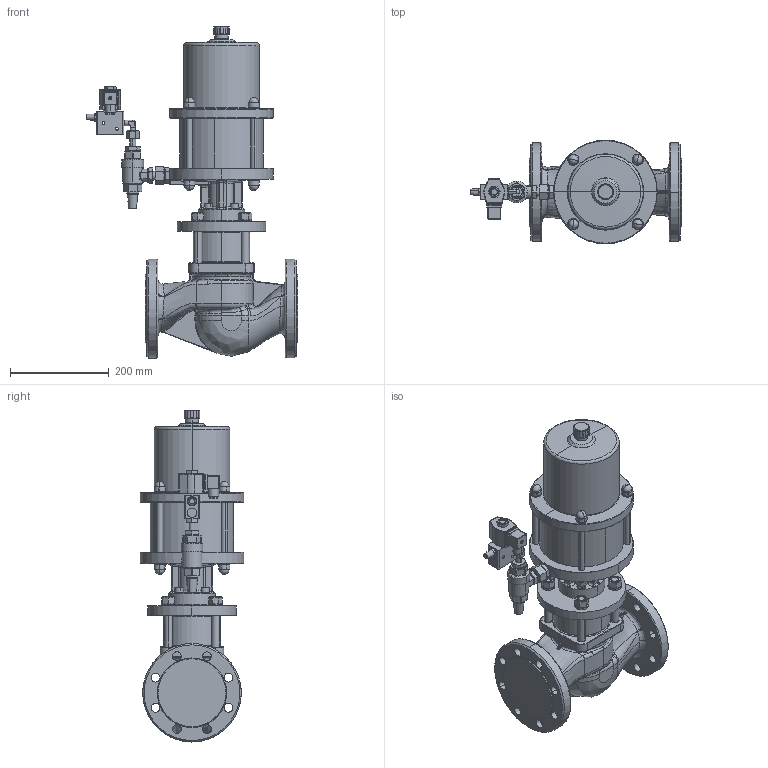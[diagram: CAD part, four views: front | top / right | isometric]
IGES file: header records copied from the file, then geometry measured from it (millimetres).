
Global section: file name: No Iges File Name specified; native system: AutoDesk Inventor R12.0; preprocessor: AutoDesk Inventor Iges Exporter R12.0; date: 20101115.134753; units: millimetre
Bounding box: 429.8 x 210 x 673.55 mm (x, y, z)
Volume: 12867414.5 mm3; surface area: 753719.4 mm2
Topology: 1 solids, 2 shells, 1579 faces, 4106 edges, 2543 vertices
Faces by surface type: plane 588, bspline 352, cylinder 263, cone 157, revolution 134, torus 52, sphere 33
